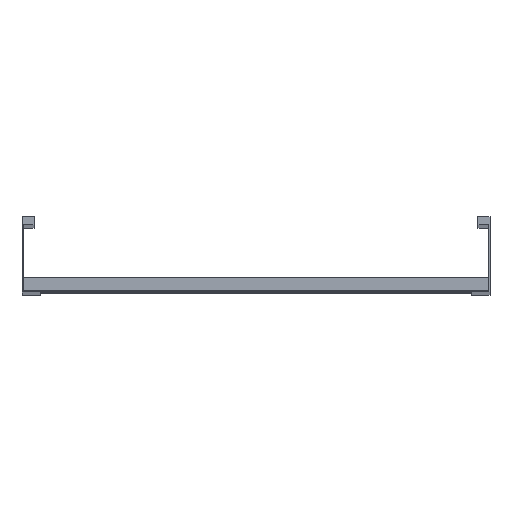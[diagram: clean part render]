
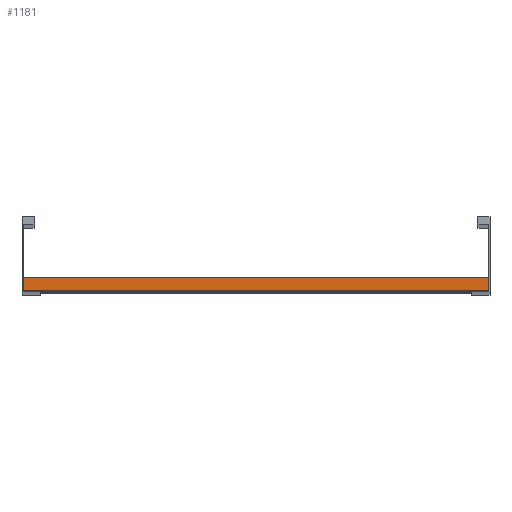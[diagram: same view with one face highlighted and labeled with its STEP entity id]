
A CAD part, top view. The second image highlights one B-rep face of the part: STEP entity #1181.
In plain terms, the highlighted planar face has unit normal (0, 0, 1).
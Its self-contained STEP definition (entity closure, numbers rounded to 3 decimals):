
#24 = LINE ( 'NONE', #241, #43 ) ;
#34 = CARTESIAN_POINT ( 'NONE',  ( 348., 20., 20.25 ) ) ;
#43 = VECTOR ( 'NONE', #554, 1000. ) ;
#101 = EDGE_LOOP ( 'NONE', ( #1667, #476, #1292, #220 ) ) ;
#132 = FACE_OUTER_BOUND ( 'NONE', #101, .T. ) ;
#177 = VECTOR ( 'NONE', #955, 1000. ) ;
#217 = CARTESIAN_POINT ( 'NONE',  ( -348., 20., 20.25 ) ) ;
#220 = ORIENTED_EDGE ( 'NONE', *, *, #801, .T. ) ;
#241 = CARTESIAN_POINT ( 'NONE',  ( -348., 20., 20.25 ) ) ;
#415 = LINE ( 'NONE', #784, #1107 ) ;
#452 = EDGE_CURVE ( 'NONE', #921, #781, #717, .T. ) ;
#476 = ORIENTED_EDGE ( 'NONE', *, *, #452, .F. ) ;
#528 = CARTESIAN_POINT ( 'NONE',  ( 348., 20., 20.25 ) ) ;
#534 = CARTESIAN_POINT ( 'NONE',  ( -348., 0., 20.25 ) ) ;
#539 = PLANE ( 'NONE',  #1077 ) ;
#554 = DIRECTION ( 'NONE',  ( 0., -1., 0. ) ) ;
#636 = VERTEX_POINT ( 'NONE', #217 ) ;
#714 = CARTESIAN_POINT ( 'NONE',  ( 348., 0., 20.25 ) ) ;
#717 = LINE ( 'NONE', #724, #1434 ) ;
#724 = CARTESIAN_POINT ( 'NONE',  ( 348., 0., 20.25 ) ) ;
#781 = VERTEX_POINT ( 'NONE', #534 ) ;
#784 = CARTESIAN_POINT ( 'NONE',  ( 348., 20., 20.25 ) ) ;
#801 = EDGE_CURVE ( 'NONE', #1439, #636, #1081, .T. ) ;
#807 = DIRECTION ( 'NONE',  ( 0., -1., 0. ) ) ;
#914 = CARTESIAN_POINT ( 'NONE',  ( 348., 20., 20.25 ) ) ;
#921 = VERTEX_POINT ( 'NONE', #714 ) ;
#955 = DIRECTION ( 'NONE',  ( -1., 0., 0. ) ) ;
#967 = DIRECTION ( 'NONE',  ( -1., 0., 0. ) ) ;
#1077 = AXIS2_PLACEMENT_3D ( 'NONE', #914, #1183, #1322 ) ;
#1081 = LINE ( 'NONE', #528, #177 ) ;
#1107 = VECTOR ( 'NONE', #807, 1000. ) ;
#1181 = ADVANCED_FACE ( 'NONE', ( #132 ), #539, .F. ) ;
#1183 = DIRECTION ( 'NONE',  ( 0., 0., -1. ) ) ;
#1200 = EDGE_CURVE ( 'NONE', #636, #781, #24, .T. ) ;
#1292 = ORIENTED_EDGE ( 'NONE', *, *, #1715, .F. ) ;
#1322 = DIRECTION ( 'NONE',  ( 0., 1., 0. ) ) ;
#1434 = VECTOR ( 'NONE', #967, 1000. ) ;
#1439 = VERTEX_POINT ( 'NONE', #34 ) ;
#1667 = ORIENTED_EDGE ( 'NONE', *, *, #1200, .T. ) ;
#1715 = EDGE_CURVE ( 'NONE', #1439, #921, #415, .T. ) ;
